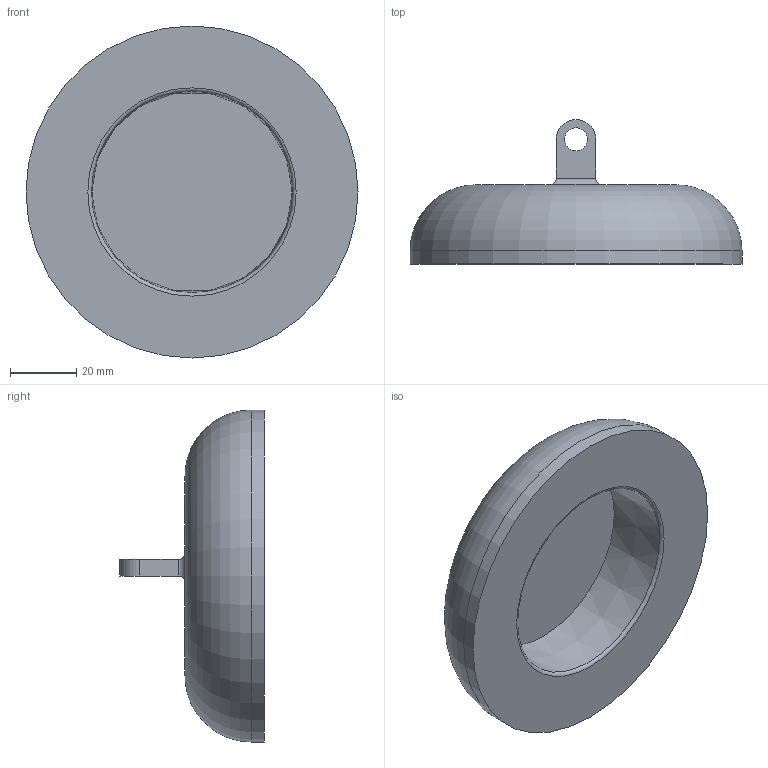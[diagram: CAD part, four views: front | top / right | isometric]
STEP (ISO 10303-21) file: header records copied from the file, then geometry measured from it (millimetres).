
FILE_DESCRIPTION(('STEP AP203'), '1');
FILE_NAME('stand', '', ('UNSPECIFIED'), ('UNSPECIFIED'), 'ASCON STEP Converter 1.3', 'ASCON Math Kernel', '');
FILE_SCHEMA(('CONFIG_CONTROL_DESIGN'));
Length unit declared in the file: millimetre
Bounding box: 100.5 x 43.75 x 100.5 mm (x, y, z)
Volume: 108532.5 mm3; surface area: 24859.8 mm2
Topology: 1 solids, 1 shells, 17 faces, 33 edges, 20 vertices
Faces by surface type: plane 7, cylinder 7, torus 2, cone 1
Full cylindrical faces by diameter (mm): 7 x1, 100.5 x1
Entity records: 588 total; most frequent: CARTESIAN_POINT 78, DIRECTION 70, ORIENTED_EDGE 56, AXIS2_PLACEMENT_3D 28, EDGE_CURVE 28, EDGE_LOOP 26, VERTEX_POINT 20, COLOUR_RGB 18
